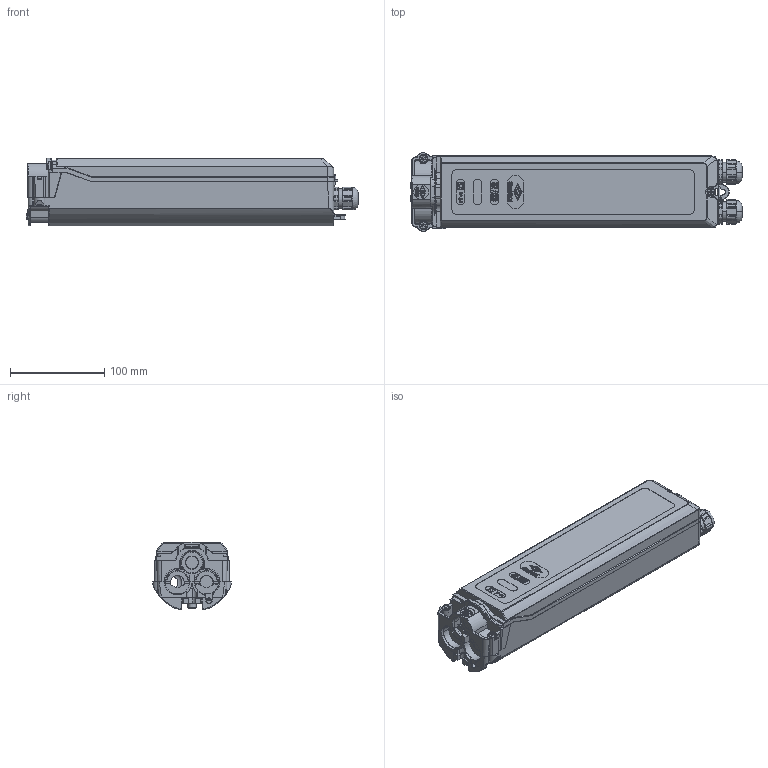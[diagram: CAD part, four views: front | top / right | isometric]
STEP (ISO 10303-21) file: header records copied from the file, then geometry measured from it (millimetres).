
FILE_DESCRIPTION (( 'STEP AP203' ), '1' );
FILE_NAME ('3D - HSW2500-M20 Außenkontur.STEP', '2019-06-28T09:16:05', ( '' ), ( '' ), 'SwSTEP 2.0', 'SolidWorks 2013', '' );
FILE_SCHEMA (( 'CONFIG_CONTROL_DESIGN' ));
Products named in the file (1): 3D - HSW2500-M20 Außenkontur
Bounding box: 353.13 x 83.5 x 71.86 mm (x, y, z)
Surface area: 141634.4 mm2 (no closed solid volume)
Topology: 0 solids, 23 shells, 1275 faces, 4479 edges, 3154 vertices
Faces by surface type: plane 579, cylinder 370, bspline 139, cone 95, torus 86, sphere 6
Entity records: 58772 total; most frequent: CARTESIAN_POINT 22494, ORIENTED_EDGE 7368, DIRECTION 6849, EDGE_CURVE 4477, VERTEX_POINT 3154, VECTOR 2581, LINE 2581, AXIS2_PLACEMENT_3D 2134
